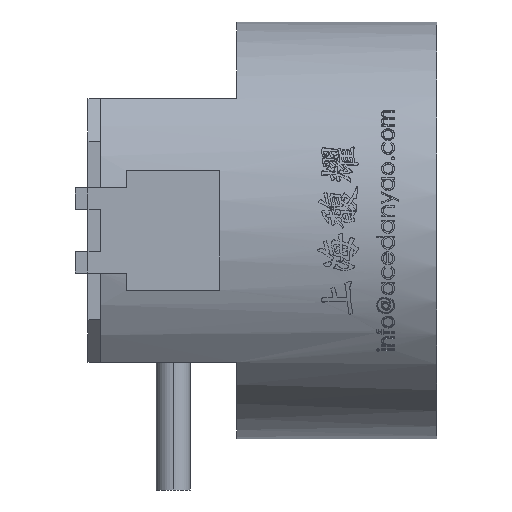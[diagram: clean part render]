
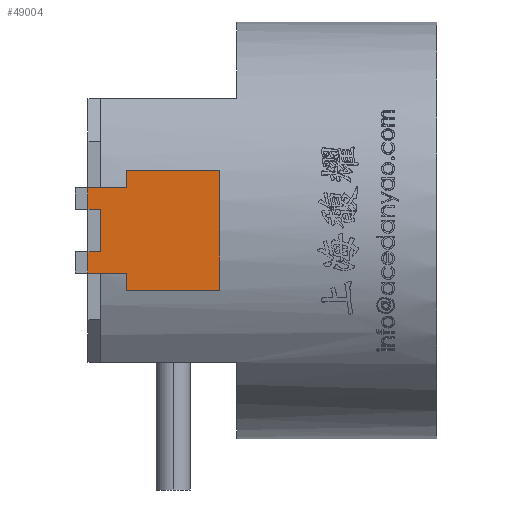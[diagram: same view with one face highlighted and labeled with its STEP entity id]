
A CAD part, left-side view. The second image highlights one B-rep face of the part: STEP entity #49004.
In plain terms, the highlighted planar face has unit normal (-1, 0, 0) as drawn and (1, 0, 0) by its records, which use the part's own axes.
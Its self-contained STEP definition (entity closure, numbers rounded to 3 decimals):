
#286 = VERTEX_POINT ( 'NONE', #2321 ) ;
#1054 = CARTESIAN_POINT ( 'NONE',  ( 0., 0., 7. ) ) ;
#2321 = CARTESIAN_POINT ( 'NONE',  ( 0., 11., -7. ) ) ;
#2386 = DIRECTION ( 'NONE',  ( 0., -1., 0. ) ) ;
#2787 = AXIS2_PLACEMENT_3D ( 'NONE', #25412, #16013, #55253 ) ;
#3995 = DIRECTION ( 'NONE',  ( 0., 1., 0. ) ) ;
#4276 = CARTESIAN_POINT ( 'NONE',  ( 0., 14., 2.5 ) ) ;
#5663 = CARTESIAN_POINT ( 'NONE',  ( 0., 15.5, 7. ) ) ;
#6113 = LINE ( 'NONE', #35303, #58791 ) ;
#6555 = EDGE_CURVE ( 'NONE', #59430, #42852, #17260, .T. ) ;
#7102 = ORIENTED_EDGE ( 'NONE', *, *, #55229, .F. ) ;
#7509 = VERTEX_POINT ( 'NONE', #32860 ) ;
#9428 = VERTEX_POINT ( 'NONE', #10276 ) ;
#9460 = LINE ( 'NONE', #14558, #69089 ) ;
#10195 = LINE ( 'NONE', #60173, #11970 ) ;
#10276 = CARTESIAN_POINT ( 'NONE',  ( 0., 14., -2.5 ) ) ;
#10580 = ORIENTED_EDGE ( 'NONE', *, *, #46842, .F. ) ;
#11211 = CARTESIAN_POINT ( 'NONE',  ( 0., 11., -5. ) ) ;
#11970 = VECTOR ( 'NONE', #65791, 1000. ) ;
#12566 = ORIENTED_EDGE ( 'NONE', *, *, #42871, .F. ) ;
#13198 = EDGE_CURVE ( 'NONE', #30864, #59430, #61895, .T. ) ;
#13676 = ORIENTED_EDGE ( 'NONE', *, *, #58699, .T. ) ;
#14558 = CARTESIAN_POINT ( 'NONE',  ( 0., 14., 7. ) ) ;
#16013 = DIRECTION ( 'NONE',  ( -1., 0., 0. ) ) ;
#17260 = LINE ( 'NONE', #30312, #32159 ) ;
#18456 = EDGE_CURVE ( 'NONE', #7509, #58139, #51253, .T. ) ;
#20422 = DIRECTION ( 'NONE',  ( 0., 0., -1. ) ) ;
#23805 = CARTESIAN_POINT ( 'NONE',  ( 0., 15.5, -2.5 ) ) ;
#25002 = DIRECTION ( 'NONE',  ( 0., 1., 0. ) ) ;
#25412 = CARTESIAN_POINT ( 'NONE',  ( 0., 0., 7. ) ) ;
#25486 = LINE ( 'NONE', #43203, #55278 ) ;
#30312 = CARTESIAN_POINT ( 'NONE',  ( 0., 0., -5. ) ) ;
#30799 = LINE ( 'NONE', #51211, #45700 ) ;
#30864 = VERTEX_POINT ( 'NONE', #23805 ) ;
#32055 = VERTEX_POINT ( 'NONE', #34285 ) ;
#32159 = VECTOR ( 'NONE', #2386, 1000. ) ;
#32170 = CARTESIAN_POINT ( 'NONE',  ( 0., 11., 7. ) ) ;
#32860 = CARTESIAN_POINT ( 'NONE',  ( 0., 15.5, 5. ) ) ;
#33754 = DIRECTION ( 'NONE',  ( 0., 1., 0. ) ) ;
#33762 = LINE ( 'NONE', #64703, #60123 ) ;
#34285 = CARTESIAN_POINT ( 'NONE',  ( 0., 0., -7. ) ) ;
#35303 = CARTESIAN_POINT ( 'NONE',  ( 0., 11., 7. ) ) ;
#36226 = CARTESIAN_POINT ( 'NONE',  ( 0., 8.5, 2.5 ) ) ;
#37050 = EDGE_CURVE ( 'NONE', #32055, #286, #30799, .T. ) ;
#37756 = VECTOR ( 'NONE', #33754, 1000. ) ;
#38688 = DIRECTION ( 'NONE',  ( 0., 1., 0. ) ) ;
#39173 = VECTOR ( 'NONE', #25002, 1000. ) ;
#40196 = EDGE_CURVE ( 'NONE', #41559, #7509, #25486, .T. ) ;
#40630 = CARTESIAN_POINT ( 'NONE',  ( 0., 11., 5. ) ) ;
#40945 = DIRECTION ( 'NONE',  ( 0., 0., -1. ) ) ;
#41093 = VECTOR ( 'NONE', #68965, 1000. ) ;
#41559 = VERTEX_POINT ( 'NONE', #40630 ) ;
#41911 = ORIENTED_EDGE ( 'NONE', *, *, #60266, .F. ) ;
#42852 = VERTEX_POINT ( 'NONE', #11211 ) ;
#42871 = EDGE_CURVE ( 'NONE', #9428, #30864, #52736, .T. ) ;
#43203 = CARTESIAN_POINT ( 'NONE',  ( 0., 0., 5. ) ) ;
#43361 = ORIENTED_EDGE ( 'NONE', *, *, #52464, .T. ) ;
#43976 = VERTEX_POINT ( 'NONE', #4276 ) ;
#44876 = DIRECTION ( 'NONE',  ( 0., 0., -1. ) ) ;
#45700 = VECTOR ( 'NONE', #38688, 1000. ) ;
#46842 = EDGE_CURVE ( 'NONE', #60291, #41559, #6113, .T. ) ;
#47091 = ORIENTED_EDGE ( 'NONE', *, *, #18456, .F. ) ;
#48187 = PLANE ( 'NONE',  #2787 ) ;
#48256 = ORIENTED_EDGE ( 'NONE', *, *, #65955, .F. ) ;
#49004 = ADVANCED_FACE ( 'NONE', ( #63129 ), #48187, .F. ) ;
#49301 = VERTEX_POINT ( 'NONE', #1054 ) ;
#49670 = CARTESIAN_POINT ( 'NONE',  ( 0., 15.5, 7. ) ) ;
#49946 = CARTESIAN_POINT ( 'NONE',  ( 0., 8.5, -2.5 ) ) ;
#50120 = ORIENTED_EDGE ( 'NONE', *, *, #13198, .F. ) ;
#51211 = CARTESIAN_POINT ( 'NONE',  ( 0., 0., -7. ) ) ;
#51253 = LINE ( 'NONE', #49670, #66160 ) ;
#51980 = EDGE_LOOP ( 'NONE', ( #10580, #48256, #43361, #64598, #41911, #64552, #50120, #12566, #7102, #13676, #47091, #67009 ) ) ;
#52264 = VECTOR ( 'NONE', #44876, 1000. ) ;
#52464 = EDGE_CURVE ( 'NONE', #49301, #32055, #52532, .T. ) ;
#52532 = LINE ( 'NONE', #63354, #41093 ) ;
#52736 = LINE ( 'NONE', #49946, #37756 ) ;
#53429 = DIRECTION ( 'NONE',  ( 0., 1., 0. ) ) ;
#55229 = EDGE_CURVE ( 'NONE', #43976, #9428, #9460, .T. ) ;
#55253 = DIRECTION ( 'NONE',  ( 0., -1., 0. ) ) ;
#55278 = VECTOR ( 'NONE', #3995, 1000. ) ;
#57665 = LINE ( 'NONE', #36226, #39173 ) ;
#58139 = VERTEX_POINT ( 'NONE', #65023 ) ;
#58699 = EDGE_CURVE ( 'NONE', #43976, #58139, #57665, .T. ) ;
#58791 = VECTOR ( 'NONE', #40945, 1000. ) ;
#59430 = VERTEX_POINT ( 'NONE', #71425 ) ;
#60123 = VECTOR ( 'NONE', #53429, 1000. ) ;
#60173 = CARTESIAN_POINT ( 'NONE',  ( 0., 11., 7. ) ) ;
#60258 = DIRECTION ( 'NONE',  ( 0., 0., -1. ) ) ;
#60266 = EDGE_CURVE ( 'NONE', #42852, #286, #10195, .T. ) ;
#60291 = VERTEX_POINT ( 'NONE', #32170 ) ;
#61895 = LINE ( 'NONE', #5663, #52264 ) ;
#63129 = FACE_OUTER_BOUND ( 'NONE', #51980, .T. ) ;
#63354 = CARTESIAN_POINT ( 'NONE',  ( 0., 0., 7. ) ) ;
#64552 = ORIENTED_EDGE ( 'NONE', *, *, #6555, .F. ) ;
#64598 = ORIENTED_EDGE ( 'NONE', *, *, #37050, .T. ) ;
#64703 = CARTESIAN_POINT ( 'NONE',  ( 0., 0., 7. ) ) ;
#65023 = CARTESIAN_POINT ( 'NONE',  ( 0., 15.5, 2.5 ) ) ;
#65791 = DIRECTION ( 'NONE',  ( 0., 0., -1. ) ) ;
#65955 = EDGE_CURVE ( 'NONE', #49301, #60291, #33762, .T. ) ;
#66160 = VECTOR ( 'NONE', #60258, 1000. ) ;
#67009 = ORIENTED_EDGE ( 'NONE', *, *, #40196, .F. ) ;
#68965 = DIRECTION ( 'NONE',  ( 0., 0., -1. ) ) ;
#69089 = VECTOR ( 'NONE', #20422, 1000. ) ;
#71425 = CARTESIAN_POINT ( 'NONE',  ( 0., 15.5, -5. ) ) ;
